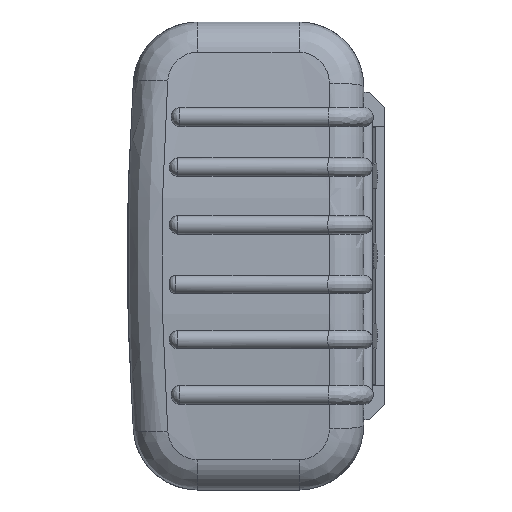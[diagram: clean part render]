
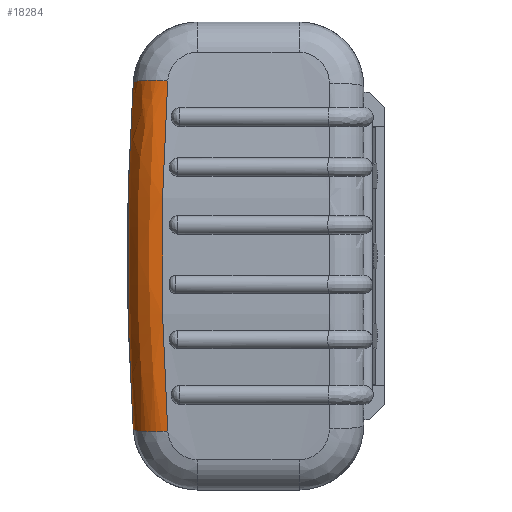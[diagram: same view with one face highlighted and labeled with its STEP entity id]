
A CAD part, left-side view. The second image highlights one B-rep face of the part: STEP entity #18284.
In plain terms, the highlighted free-form (B-spline) face has degree [3, 2] with [6, 3] control points.
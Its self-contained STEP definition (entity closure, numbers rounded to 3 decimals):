
#58 = CARTESIAN_POINT ( 'NONE',  ( 82.667, 54.777, 13.411 ) ) ;
#1352 = CARTESIAN_POINT ( 'NONE',  ( 80.55, 53.428, -40.234 ) ) ;
#2599 = CARTESIAN_POINT ( 'NONE',  ( 90.667, 46.777, 13.516 ) ) ;
#3746 = ORIENTED_EDGE ( 'NONE', *, *, #32364, .F. ) ;
#4201 = EDGE_CURVE ( 'NONE', #25600, #9985, #15487, .T. ) ;
#4394 = CIRCLE ( 'NONE', #12086, 8. ) ;
#4521 = CARTESIAN_POINT ( 'NONE',  ( 89.95, 46.334, -27.032 ) ) ;
#5141 = CARTESIAN_POINT ( 'NONE',  ( 89.935, 54.311, 27.357 ) ) ;
#5209 = ORIENTED_EDGE ( 'NONE', *, *, #21407, .F. ) ;
#7565 = CARTESIAN_POINT ( 'NONE',  ( 88.505, 45.446, -40.548 ) ) ;
#7618 = CARTESIAN_POINT ( 'NONE',  ( 88.505, 45.446, 40.548 ) ) ;
#7665 = CARTESIAN_POINT ( 'NONE',  ( 80.55, 53.428, 40.234 ) ) ;
#7840 = CARTESIAN_POINT ( 'NONE',  ( 88.505, 45.446, -40.548 ) ) ;
#7867 = CARTESIAN_POINT ( 'NONE',  ( 80.55, 53.428, 40.234 ) ) ;
#9985 = VERTEX_POINT ( 'NONE', #1352 ) ;
#10083 = CARTESIAN_POINT ( 'NONE',  ( 89.935, 54.311, -27.357 ) ) ;
#10191 = CARTESIAN_POINT ( 'NONE',  ( 88.505, 45.446, 40.548 ) ) ;
#11692 = CARTESIAN_POINT ( 'NONE',  ( 80.55, 45.446, -39.698 ) ) ;
#12035 = CARTESIAN_POINT ( 'NONE',  ( 91.383, 47.219, 0. ) ) ;
#12086 = AXIS2_PLACEMENT_3D ( 'NONE', #13226, #30898, #15737 ) ;
#12152 = CARTESIAN_POINT ( 'NONE',  ( 88.505, 45.446, 40.548 ) ) ;
#12276 = ORIENTED_EDGE ( 'NONE', *, *, #4201, .T. ) ;
#12373 = AXIS2_PLACEMENT_3D ( 'NONE', #11692, #29351, #14221 ) ;
#12556 = CARTESIAN_POINT ( 'NONE',  ( 88.449, 53.371, -41.074 ) ) ;
#12661 = CARTESIAN_POINT ( 'NONE',  ( 82.667, 54.777, -13.411 ) ) ;
#12986 = CARTESIAN_POINT ( 'NONE',  ( 83.368, 55.225, 0. ) ) ;
#13226 = CARTESIAN_POINT ( 'NONE',  ( 80.55, 45.446, 39.698 ) ) ;
#13233 =( BOUNDED_SURFACE ( )  B_SPLINE_SURFACE ( 3, 2, ( 
 ( #25113, #12556, #7565 ),
 ( #25230, #10083, #27746 ),
 ( #12661, #30317, #15181 ),
 ( #58, #17696, #2599 ),
 ( #20244, #5141, #22799 ),
 ( #7665, #25335, #10191 ) ),
 .UNSPECIFIED., .F., .F., .T. ) 
 B_SPLINE_SURFACE_WITH_KNOTS ( ( 4, 2, 4 ),
 ( 3, 3 ),
 ( 0., 0.04, 0.079 ),
 ( 0., 1. ),
 .UNSPECIFIED. ) 
 GEOMETRIC_REPRESENTATION_ITEM ( )  RATIONAL_B_SPLINE_SURFACE ( (
 ( 1., 0.71, 1.),
 ( 1., 0.708, 1.),
 ( 1., 0.707, 1.),
 ( 1., 0.707, 1.),
 ( 1., 0.708, 1.),
 ( 1., 0.71, 1.) ) ) 
 REPRESENTATION_ITEM ( '' )  SURFACE ( )  );
#14221 = DIRECTION ( 'NONE',  ( 0.994, 0., -0.106 ) ) ;
#15181 = CARTESIAN_POINT ( 'NONE',  ( 90.667, 46.777, -13.516 ) ) ;
#15487 = CIRCLE ( 'NONE', #12373, 8. ) ;
#15496 = CARTESIAN_POINT ( 'NONE',  ( 80.55, 53.428, -40.234 ) ) ;
#15737 = DIRECTION ( 'NONE',  ( 0.994, 0., 0.106 ) ) ;
#17696 = CARTESIAN_POINT ( 'NONE',  ( 90.667, 54.777, 13.695 ) ) ;
#17853 = B_SPLINE_CURVE_WITH_KNOTS ( 'NONE', 3,
 ( #24705, #4521, #12035, #27243, #12152 ),
 .UNSPECIFIED., .F., .F.,
 ( 4, 1, 4 ),
 ( 0., 0.041, 0.081 ),
 .UNSPECIFIED. ) ;
#18284 = ADVANCED_FACE ( 'NONE', ( #31570 ), #13233, .T. ) ;
#19071 = B_SPLINE_CURVE_WITH_KNOTS ( 'NONE', 3,
 ( #7867, #23005, #12986, #30648, #15496 ),
 .UNSPECIFIED., .F., .F.,
 ( 4, 1, 4 ),
 ( 0., 0.04, 0.08 ),
 .UNSPECIFIED. ) ;
#20244 = CARTESIAN_POINT ( 'NONE',  ( 81.965, 54.328, 26.823 ) ) ;
#21407 = EDGE_CURVE ( 'NONE', #29650, #28657, #4394, .T. ) ;
#22799 = CARTESIAN_POINT ( 'NONE',  ( 89.95, 46.334, 27.032 ) ) ;
#23005 = CARTESIAN_POINT ( 'NONE',  ( 81.965, 54.328, 26.822 ) ) ;
#23460 = EDGE_CURVE ( 'NONE', #25600, #29650, #17853, .T. ) ;
#24482 = EDGE_LOOP ( 'NONE', ( #12276, #3746, #5209, #25566 ) ) ;
#24705 = CARTESIAN_POINT ( 'NONE',  ( 88.505, 45.446, -40.548 ) ) ;
#25113 = CARTESIAN_POINT ( 'NONE',  ( 80.55, 53.428, -40.234 ) ) ;
#25230 = CARTESIAN_POINT ( 'NONE',  ( 81.965, 54.328, -26.823 ) ) ;
#25335 = CARTESIAN_POINT ( 'NONE',  ( 88.449, 53.371, 41.074 ) ) ;
#25566 = ORIENTED_EDGE ( 'NONE', *, *, #23460, .F. ) ;
#25600 = VERTEX_POINT ( 'NONE', #7840 ) ;
#27243 = CARTESIAN_POINT ( 'NONE',  ( 89.95, 46.334, 27.032 ) ) ;
#27746 = CARTESIAN_POINT ( 'NONE',  ( 89.95, 46.334, -27.032 ) ) ;
#28657 = VERTEX_POINT ( 'NONE', #29571 ) ;
#29351 = DIRECTION ( 'NONE',  ( 0.106, 0.067, 0.992 ) ) ;
#29571 = CARTESIAN_POINT ( 'NONE',  ( 80.55, 53.428, 40.234 ) ) ;
#29650 = VERTEX_POINT ( 'NONE', #7618 ) ;
#30317 = CARTESIAN_POINT ( 'NONE',  ( 90.667, 54.777, -13.695 ) ) ;
#30648 = CARTESIAN_POINT ( 'NONE',  ( 81.965, 54.328, -26.822 ) ) ;
#30898 = DIRECTION ( 'NONE',  ( -0.106, -0.067, 0.992 ) ) ;
#31570 = FACE_OUTER_BOUND ( 'NONE', #24482, .T. ) ;
#32364 = EDGE_CURVE ( 'NONE', #28657, #9985, #19071, .T. ) ;
